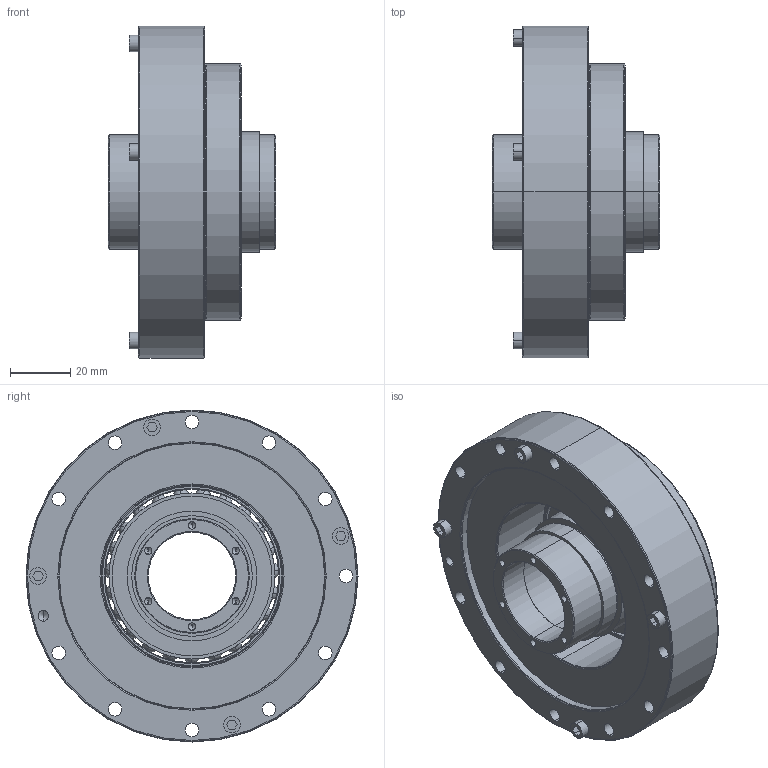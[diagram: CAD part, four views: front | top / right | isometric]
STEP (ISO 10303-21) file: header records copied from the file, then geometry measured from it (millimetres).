
FILE_DESCRIPTION((''),'2;1');
FILE_NAME('LHT-25-U-I_ASM','2017-09-29T',('Administrator'),(''),'PRO/ENGINEER BY PARAMETRIC TECHNOLOGY CORPORATION, 2014200','PRO/ENGINEER BY PARAMETRIC TECHNOLOGY CORPORATION, 2014200','');
FILE_SCHEMA(('AUTOMOTIVE_DESIGN { 1 0 10303 214 1 1 1 1 }'));
Length unit declared in the file: millimetre
Products named in the file (21): MANIFOLD_SOLID_BREP_180; MANIFOLD_SOLID_BREP_181; MANIFOLD_SOLID_BREP_182; MANIFOLD_SOLID_BREP_183; MANIFOLD_SOLID_BREP_184; MANIFOLD_SOLID_BREP_185; MANIFOLD_SOLID_BREP_186; MANIFOLD_SOLID_BREP_187; MANIFOLD_SOLID_BREP_188; MANIFOLD_SOLID_BREP_189; MANIFOLD_SOLID_BREP_190; ADMI7ED1CHGT_ASM; MANIFOLD_SOLID_BREP_1055_1; MANIFOLD_SOLID_BREP_1071_1; MANIFOLD_SOLID_BREP_1105_1; MANIFOLD_SOLID_BREP_1107_1; MANIFOLD_SOLID_BREP_1117_1; ADMI85A9D2O7_ASM_1_ASM; LHT-25-U-3_ASM_1_ASM; 25-5_ASM; LHT-25-U-I_ASM
Assembly tree (42 placements, depth 5):
  LHT-25-U-I_ASM
    ADMI7ED1CHGT_ASM
      MANIFOLD_SOLID_BREP_180
      MANIFOLD_SOLID_BREP_181
      MANIFOLD_SOLID_BREP_182
      MANIFOLD_SOLID_BREP_183
      MANIFOLD_SOLID_BREP_184
      MANIFOLD_SOLID_BREP_185
      MANIFOLD_SOLID_BREP_186
      MANIFOLD_SOLID_BREP_187
      MANIFOLD_SOLID_BREP_188
      MANIFOLD_SOLID_BREP_189
      MANIFOLD_SOLID_BREP_190
    25-5_ASM
      LHT-25-U-3_ASM_1_ASM
        ADMI85A9D2O7_ASM_1_ASM
          MANIFOLD_SOLID_BREP_1055_1
          MANIFOLD_SOLID_BREP_1071_1
          MANIFOLD_SOLID_BREP_1105_1  x23
          MANIFOLD_SOLID_BREP_1107_1
          MANIFOLD_SOLID_BREP_1117_1
Bounding box: 55.5 x 110 x 110 mm (x, y, z)
Volume: 207174.5 mm3; surface area: 67109.1 mm2
Topology: 38 solids, 38 shells, 683 faces, 1794 edges, 1098 vertices
Faces by surface type: cylinder 258, plane 169, cone 108, sphere 92, torus 56
Entity records: 24216 total; most frequent: DIRECTION 3724, CARTESIAN_POINT 3228, ORIENTED_EDGE 2932, AXIS2_PLACEMENT_3D 1564, PRESENTATION_STYLE_ASSIGNMENT 1482, STYLED_ITEM 1482, CURVE_STYLE 1466, EDGE_CURVE 1466
